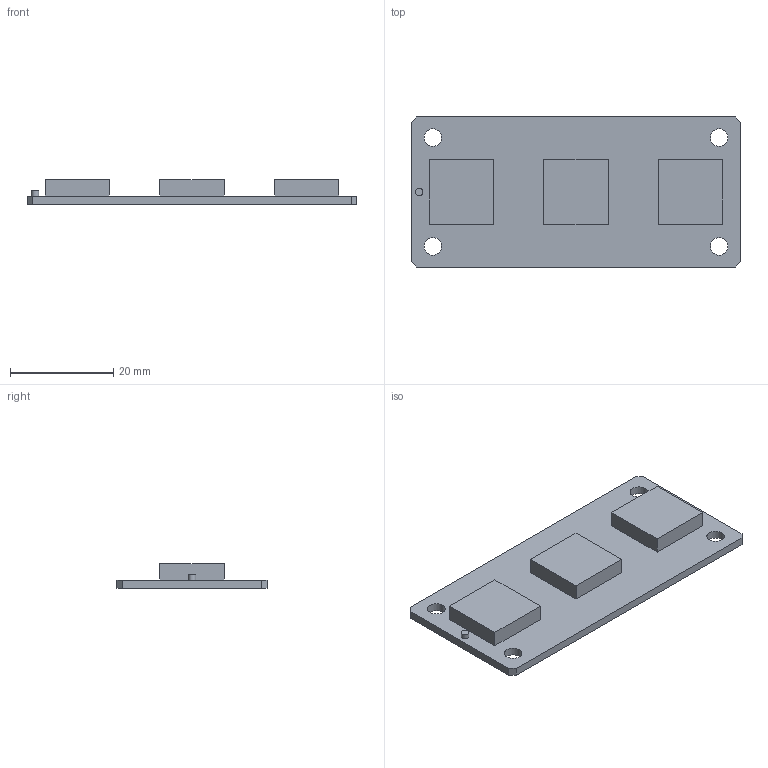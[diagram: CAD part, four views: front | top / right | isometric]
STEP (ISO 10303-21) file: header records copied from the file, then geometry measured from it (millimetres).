
FILE_DESCRIPTION(('Open CASCADE Model'),'2;1');
FILE_NAME('Open CASCADE Shape Model','2026-10-01T18:32:20',('Author'),( 'Open CASCADE'),'Open CASCADE STEP processor 8.0','build123d', 'Unknown');
FILE_SCHEMA(('AUTOMOTIVE_DESIGN { 1 0 10303 214 1 1 1 1 }'));
Length unit declared in the file: millimetre
Products named in the file (1): COMPOUND
Bounding box: 63.85 x 29.05 x 4.75 mm (x, y, z)
Volume: 4373 mm3; surface area: 4470.3 mm2
Topology: 1 solids, 1 shells, 31 faces, 75 edges, 50 vertices
Faces by surface type: plane 26, cylinder 5
Full cylindrical faces by diameter (mm): 1.5 x1, 3.4 x4
Entity records: 1900 total; most frequent: CARTESIAN_POINT 307, DIRECTION 299, LINE 205, VECTOR 205, ORIENTED_EDGE 150, PCURVE 150, DEFINITIONAL_REPRESENTATION 150, EDGE_CURVE 75
